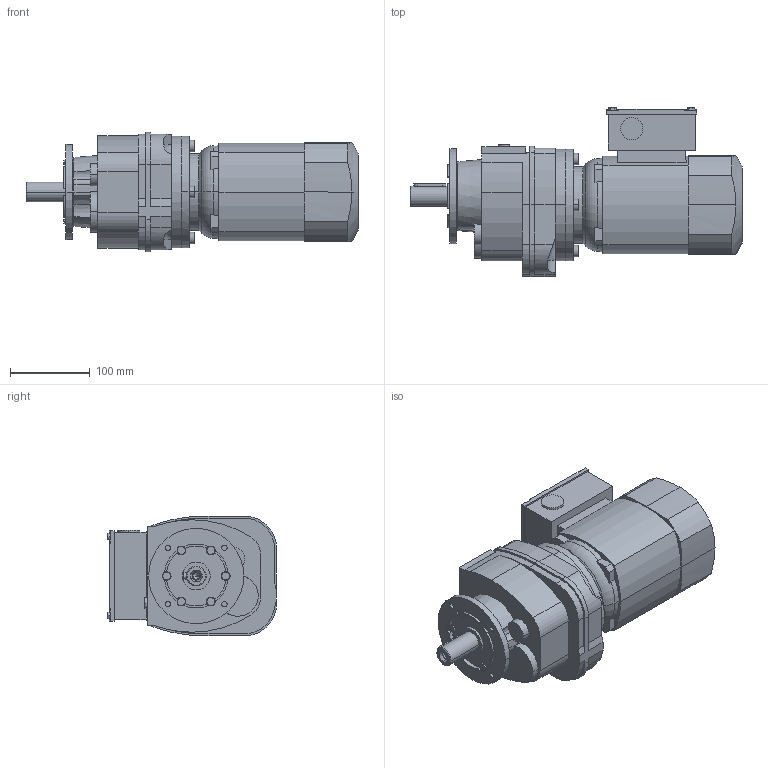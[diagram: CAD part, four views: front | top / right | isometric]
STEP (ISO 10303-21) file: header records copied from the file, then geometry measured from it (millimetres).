
FILE_DESCRIPTION(('STEP AP214'),'1');
FILE_NAME('STEP-File.stp','2018-01-01T00:00:00',(' '),('KEB'),' ','KEB-DRIVE',' ');
FILE_SCHEMA(('AUTOMOTIVE_DESIGN { 1 0 10303 214 1 1 1 1 }'));
Length unit declared in the file: millimetre
Products named in the file (9): g2b; w2_we_25x50; c2_120; ck2; dm71_kkn; kk08; PLUG_M25; ndm71; G23C DM71K4§CAD13
Assembly tree (8 placements, depth 2):
  G23C DM71K4§CAD13
    g2b
    w2_we_25x50
    c2_120
    ck2
    dm71_kkn
    kk08
    PLUG_M25
    ndm71
Bounding box: 415.5 x 211.5 x 150 mm (x, y, z)
Volume: 5780191 mm3; surface area: 380612.8 mm2
Topology: 8 solids, 8 shells, 423 faces, 1168 edges, 859 vertices
Faces by surface type: plane 229, cylinder 132, cone 58, torus 4
Entity records: 15552 total; most frequent: CARTESIAN_POINT 5201, ORIENTED_EDGE 2332, DIRECTION 1691, EDGE_CURVE 1166, VERTEX_POINT 859, VECTOR 697, LINE 697, EDGE_LOOP 531
